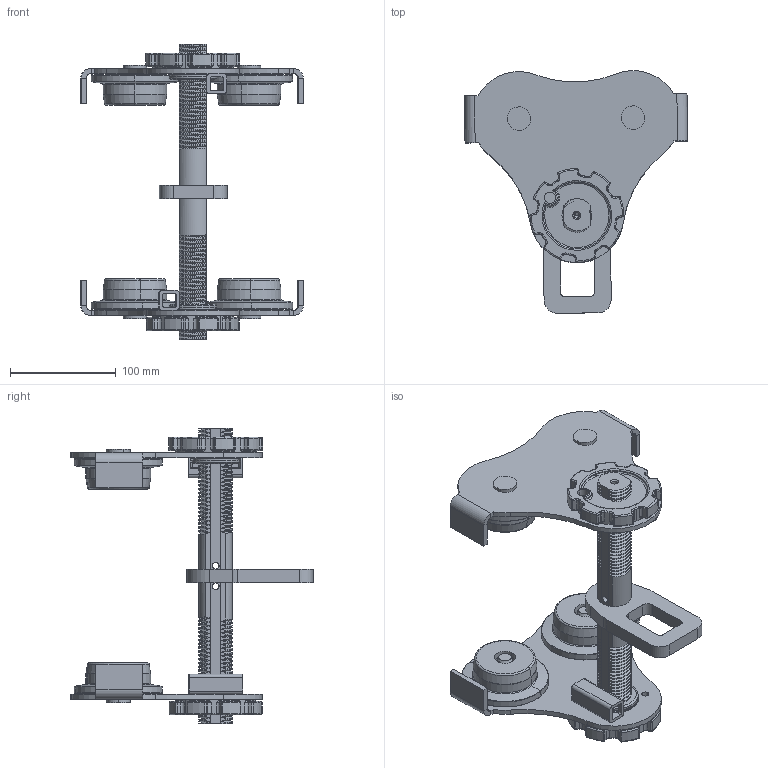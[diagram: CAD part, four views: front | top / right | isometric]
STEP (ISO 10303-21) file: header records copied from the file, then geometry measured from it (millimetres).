
FILE_DESCRIPTION (( 'STEP AP214' ), '1' );
FILE_NAME ('OZ05PBTA.STEP', '2023-03-16T13:25:02', ( '' ), ( '' ), 'SwSTEP 2.0', 'SolidWorks 2021', '' );
FILE_SCHEMA (( 'AUTOMOTIVE_DESIGN' ));
Length unit declared in the file: inch
Products named in the file (8): OT005001; OT005006; OT005014; OT001020; OT005007; OT001005; OZ05PBTA; OT005003_Finished Part
Assembly tree (16 placements, depth 2):
  OZ05PBTA
    OT005007  x2
    OT005003_Finished Part  x2
    OT005006  x4
    OT005001  x4
    OT001005
    OT001020
    OT005014  x2
Bounding box: 210.72 x 229.13 x 279.4 mm (x, y, z)
Volume: 963143.4 mm3; surface area: 293264.9 mm2
Topology: 16 solids, 16 shells, 1254 faces, 3132 edges, 1876 vertices
Faces by surface type: cylinder 475, bspline 264, torus 202, plane 189, sphere 80, cone 44
Entity records: 360207 total; most frequent: CARTESIAN_POINT 343058, ORIENTED_EDGE 3962, DIRECTION 2793, EDGE_CURVE 1981, VERTEX_POINT 1237, AXIS2_PLACEMENT_3D 1102, EDGE_LOOP 810, FACE_OUTER_BOUND 769
